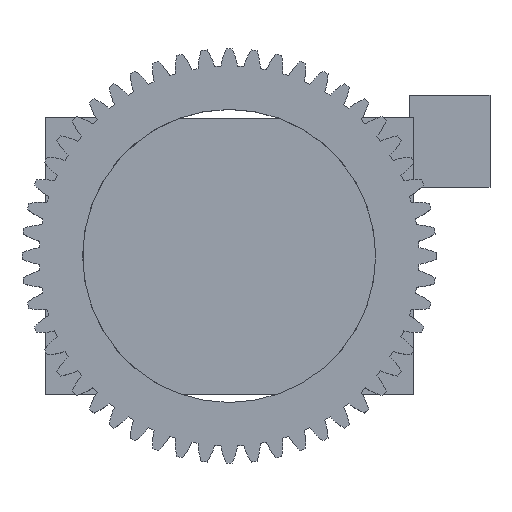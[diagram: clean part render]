
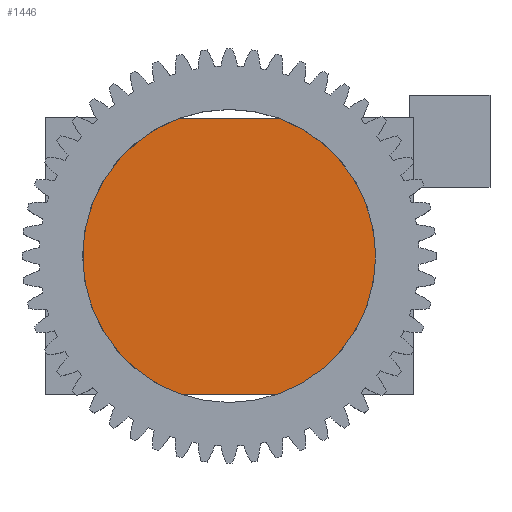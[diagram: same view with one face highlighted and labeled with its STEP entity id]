
A CAD part, top view. The second image highlights one B-rep face of the part: STEP entity #1446.
In plain terms, the highlighted planar face has unit normal (0, 0, 1).
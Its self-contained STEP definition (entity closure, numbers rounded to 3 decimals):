
#66 = PLANE('',#67);
#67 = AXIS2_PLACEMENT_3D('',#68,#69,#70);
#68 = CARTESIAN_POINT('',(-24.,-18.,-35.));
#69 = DIRECTION('',(0.,1.,0.));
#70 = DIRECTION('',(0.,0.,1.));
#122 = PLANE('',#123);
#123 = AXIS2_PLACEMENT_3D('',#124,#125,#126);
#124 = CARTESIAN_POINT('',(-24.,18.,-35.));
#125 = DIRECTION('',(0.,1.,0.));
#126 = DIRECTION('',(0.,0.,1.));
#274 = VERTEX_POINT('',#275);
#275 = CARTESIAN_POINT('',(-6.388,-18.,-20.5));
#288 = CYLINDRICAL_SURFACE('',#289,19.1);
#289 = AXIS2_PLACEMENT_3D('',#290,#291,#292);
#290 = CARTESIAN_POINT('',(0.,0.,-20.5));
#291 = DIRECTION('',(-0.,0.,-1.));
#292 = DIRECTION('',(0.,1.,0.));
#299 = EDGE_CURVE('',#274,#300,#302,.T.);
#300 = VERTEX_POINT('',#301);
#301 = CARTESIAN_POINT('',(6.388,-18.,-20.5));
#302 = SURFACE_CURVE('',#303,(#307,#313),.PCURVE_S1.);
#303 = LINE('',#304,#305);
#304 = CARTESIAN_POINT('',(-12.,-18.,-20.5));
#305 = VECTOR('',#306,1.);
#306 = DIRECTION('',(1.,0.,0.));
#307 = PCURVE('',#66,#308);
#308 = DEFINITIONAL_REPRESENTATION('',(#309),#312);
#309 = B_SPLINE_CURVE_WITH_KNOTS('',1,(#310,#311),.UNSPECIFIED.,.F.,.F.,
  (2,2),(-7.1,31.1),.PIECEWISE_BEZIER_KNOTS.);
#310 = CARTESIAN_POINT('',(14.5,4.9));
#311 = CARTESIAN_POINT('',(14.5,43.1));
#312 = ( GEOMETRIC_REPRESENTATION_CONTEXT(2) 
PARAMETRIC_REPRESENTATION_CONTEXT() REPRESENTATION_CONTEXT('2D SPACE',''
  ) );
#313 = PCURVE('',#314,#319);
#314 = PLANE('',#315);
#315 = AXIS2_PLACEMENT_3D('',#316,#317,#318);
#316 = CARTESIAN_POINT('',(0.,0.,-20.5
    ));
#317 = DIRECTION('',(0.,0.,1.));
#318 = DIRECTION('',(1.,0.,-0.));
#319 = DEFINITIONAL_REPRESENTATION('',(#320),#323);
#320 = B_SPLINE_CURVE_WITH_KNOTS('',1,(#321,#322),.UNSPECIFIED.,.F.,.F.,
  (2,2),(-7.1,31.1),.PIECEWISE_BEZIER_KNOTS.);
#321 = CARTESIAN_POINT('',(-19.1,-18.));
#322 = CARTESIAN_POINT('',(19.1,-18.));
#323 = ( GEOMETRIC_REPRESENTATION_CONTEXT(2) 
PARAMETRIC_REPRESENTATION_CONTEXT() REPRESENTATION_CONTEXT('2D SPACE',''
  ) );
#340 = CYLINDRICAL_SURFACE('',#341,19.1);
#341 = AXIS2_PLACEMENT_3D('',#342,#343,#344);
#342 = CARTESIAN_POINT('',(0.,0.,-20.5));
#343 = DIRECTION('',(-0.,0.,-1.));
#344 = DIRECTION('',(0.,1.,0.));
#754 = VERTEX_POINT('',#755);
#755 = CARTESIAN_POINT('',(-6.388,18.,-20.5));
#774 = EDGE_CURVE('',#754,#775,#777,.T.);
#775 = VERTEX_POINT('',#776);
#776 = CARTESIAN_POINT('',(6.388,18.,-20.5));
#777 = SURFACE_CURVE('',#778,(#782,#788),.PCURVE_S1.);
#778 = LINE('',#779,#780);
#779 = CARTESIAN_POINT('',(-12.,18.,-20.5));
#780 = VECTOR('',#781,1.);
#781 = DIRECTION('',(1.,0.,0.));
#782 = PCURVE('',#122,#783);
#783 = DEFINITIONAL_REPRESENTATION('',(#784),#787);
#784 = B_SPLINE_CURVE_WITH_KNOTS('',1,(#785,#786),.UNSPECIFIED.,.F.,.F.,
  (2,2),(-7.1,31.1),.PIECEWISE_BEZIER_KNOTS.);
#785 = CARTESIAN_POINT('',(14.5,4.9));
#786 = CARTESIAN_POINT('',(14.5,43.1));
#787 = ( GEOMETRIC_REPRESENTATION_CONTEXT(2) 
PARAMETRIC_REPRESENTATION_CONTEXT() REPRESENTATION_CONTEXT('2D SPACE',''
  ) );
#788 = PCURVE('',#314,#789);
#789 = DEFINITIONAL_REPRESENTATION('',(#790),#793);
#790 = B_SPLINE_CURVE_WITH_KNOTS('',1,(#791,#792),.UNSPECIFIED.,.F.,.F.,
  (2,2),(-7.1,31.1),.PIECEWISE_BEZIER_KNOTS.);
#791 = CARTESIAN_POINT('',(-19.1,18.));
#792 = CARTESIAN_POINT('',(19.1,18.));
#793 = ( GEOMETRIC_REPRESENTATION_CONTEXT(2) 
PARAMETRIC_REPRESENTATION_CONTEXT() REPRESENTATION_CONTEXT('2D SPACE',''
  ) );
#1423 = EDGE_CURVE('',#300,#775,#1424,.T.);
#1424 = SURFACE_CURVE('',#1425,(#1430,#1437),.PCURVE_S1.);
#1425 = CIRCLE('',#1426,19.1);
#1426 = AXIS2_PLACEMENT_3D('',#1427,#1428,#1429);
#1427 = CARTESIAN_POINT('',(0.,0.,-20.5));
#1428 = DIRECTION('',(0.,-0.,1.));
#1429 = DIRECTION('',(0.,1.,0.));
#1430 = PCURVE('',#340,#1431);
#1431 = DEFINITIONAL_REPRESENTATION('',(#1432),#1436);
#1432 = LINE('',#1433,#1434);
#1433 = CARTESIAN_POINT('',(-0.,0.));
#1434 = VECTOR('',#1435,1.);
#1435 = DIRECTION('',(-1.,0.));
#1436 = ( GEOMETRIC_REPRESENTATION_CONTEXT(2) 
PARAMETRIC_REPRESENTATION_CONTEXT() REPRESENTATION_CONTEXT('2D SPACE',''
  ) );
#1437 = PCURVE('',#314,#1438);
#1438 = DEFINITIONAL_REPRESENTATION('',(#1439),#1443);
#1439 = CIRCLE('',#1440,19.1);
#1440 = AXIS2_PLACEMENT_2D('',#1441,#1442);
#1441 = CARTESIAN_POINT('',(0.,0.));
#1442 = DIRECTION('',(0.,1.));
#1443 = ( GEOMETRIC_REPRESENTATION_CONTEXT(2) 
PARAMETRIC_REPRESENTATION_CONTEXT() REPRESENTATION_CONTEXT('2D SPACE',''
  ) );
#1446 = ADVANCED_FACE('',(#1447),#314,.T.);
#1447 = FACE_BOUND('',#1448,.T.);
#1448 = EDGE_LOOP('',(#1449,#1450,#1472,#1473));
#1449 = ORIENTED_EDGE('',*,*,#774,.F.);
#1450 = ORIENTED_EDGE('',*,*,#1451,.T.);
#1451 = EDGE_CURVE('',#754,#274,#1452,.T.);
#1452 = SURFACE_CURVE('',#1453,(#1458,#1465),.PCURVE_S1.);
#1453 = CIRCLE('',#1454,19.1);
#1454 = AXIS2_PLACEMENT_3D('',#1455,#1456,#1457);
#1455 = CARTESIAN_POINT('',(0.,0.,-20.5));
#1456 = DIRECTION('',(0.,-0.,1.));
#1457 = DIRECTION('',(0.,1.,0.));
#1458 = PCURVE('',#314,#1459);
#1459 = DEFINITIONAL_REPRESENTATION('',(#1460),#1464);
#1460 = CIRCLE('',#1461,19.1);
#1461 = AXIS2_PLACEMENT_2D('',#1462,#1463);
#1462 = CARTESIAN_POINT('',(0.,0.));
#1463 = DIRECTION('',(0.,1.));
#1464 = ( GEOMETRIC_REPRESENTATION_CONTEXT(2) 
PARAMETRIC_REPRESENTATION_CONTEXT() REPRESENTATION_CONTEXT('2D SPACE',''
  ) );
#1465 = PCURVE('',#288,#1466);
#1466 = DEFINITIONAL_REPRESENTATION('',(#1467),#1471);
#1467 = LINE('',#1468,#1469);
#1468 = CARTESIAN_POINT('',(-0.,0.));
#1469 = VECTOR('',#1470,1.);
#1470 = DIRECTION('',(-1.,0.));
#1471 = ( GEOMETRIC_REPRESENTATION_CONTEXT(2) 
PARAMETRIC_REPRESENTATION_CONTEXT() REPRESENTATION_CONTEXT('2D SPACE',''
  ) );
#1472 = ORIENTED_EDGE('',*,*,#299,.T.);
#1473 = ORIENTED_EDGE('',*,*,#1423,.T.);
